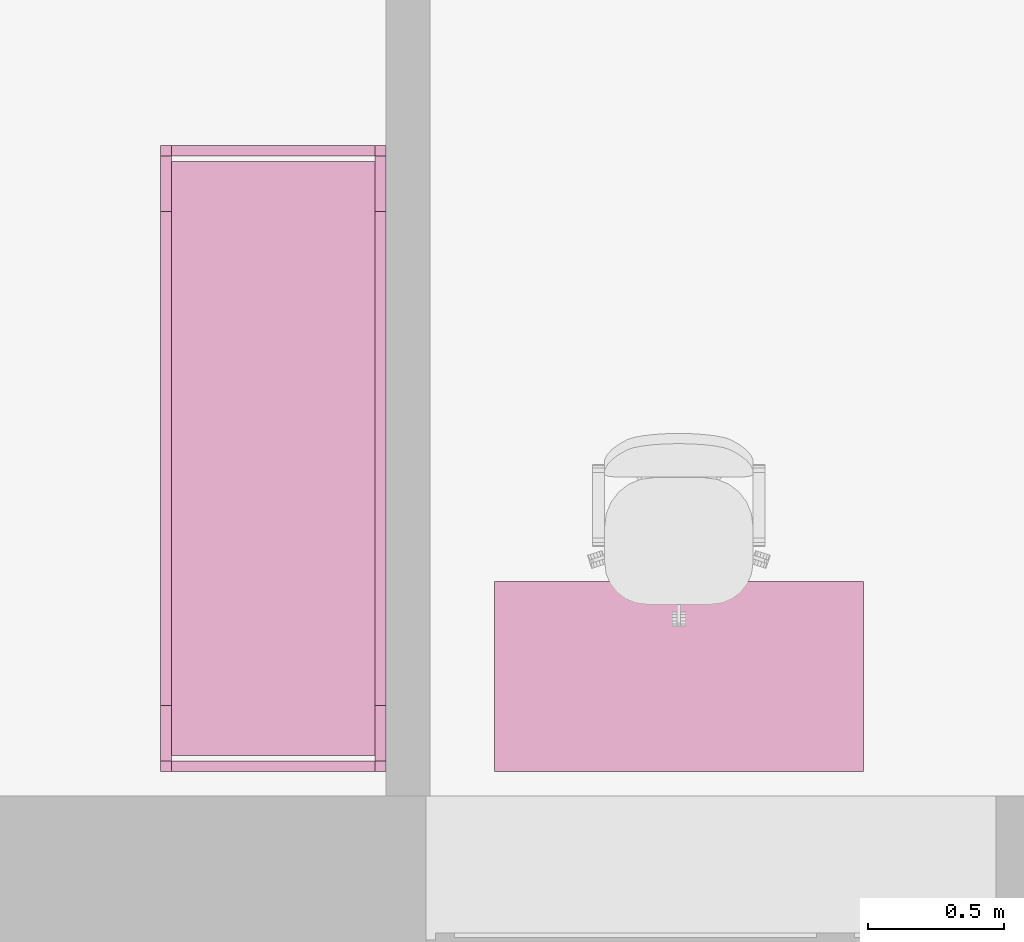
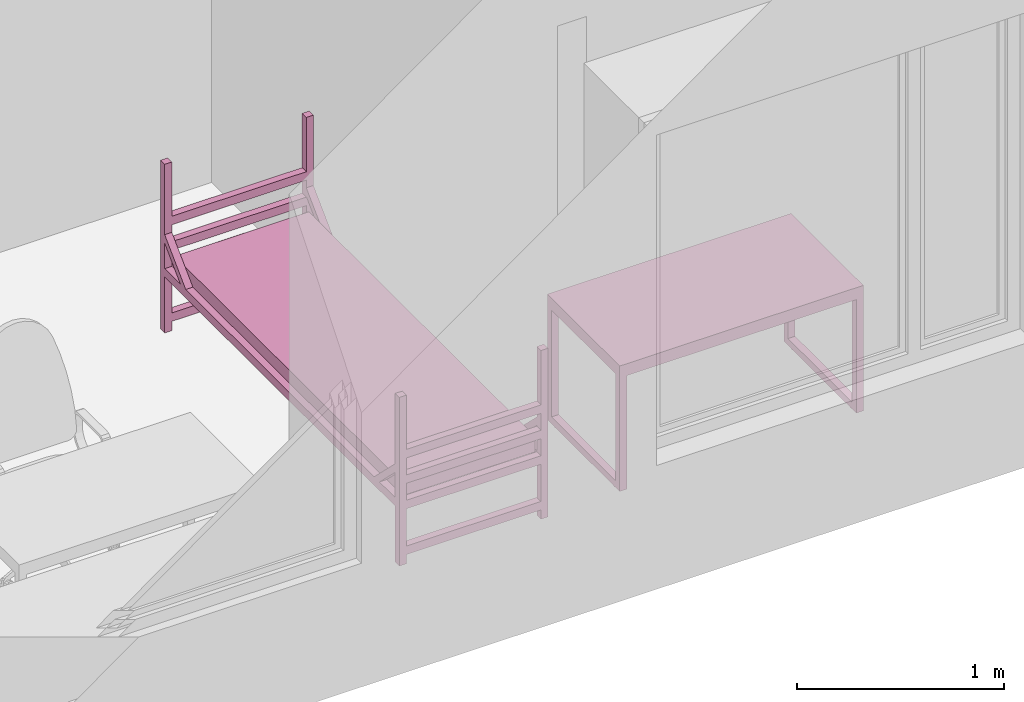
# One storey, part 32 of 48: 2 furnishings.
"""IFC2X3 building model written with IfcOpenShell, lengths in millimetres."""

from ifc_helpers import new_model, entity, si_unit, converted_unit, derived_unit, direction, frame, frame_2d, origin, place, context, subcontext, project, spatial, polyline, circle_curve, parameter, trimmed, segment, composite_curve, rectangle, outline, extrude, faceted_brep, source, transform, mapped, material, material_list, type_object, type_shapes, element, save


model = new_model("IFC2X3")

# Units and contexts
model_context = context("Model", 3, precision=0.01, world=origin(), true_north=direction((6.12303176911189e-17, 1.0)))
body_context = subcontext(model_context, "Body", "Model", "MODEL_VIEW")
ifc_project = project(units=[si_unit("LENGTHUNIT", "METRE", prefix="MILLI"), si_unit("AREAUNIT", "SQUARE_METRE"), si_unit("VOLUMEUNIT", "CUBIC_METRE"), converted_unit("PLANEANGLEUNIT", "DEGREE", entity("IfcRatioMeasure", 0.0174532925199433), si_unit("PLANEANGLEUNIT", "RADIAN"), dimensions=[0, 0, 0, 0, 0, 0, 0]), si_unit("MASSUNIT", "GRAM", prefix="KILO"), derived_unit("MASSDENSITYUNIT", [(si_unit("MASSUNIT", "GRAM", prefix="KILO"), 1), (si_unit("LENGTHUNIT", "METRE"), -3)]), si_unit("TIMEUNIT", "SECOND"), si_unit("FREQUENCYUNIT", "HERTZ"), si_unit("THERMODYNAMICTEMPERATUREUNIT", "DEGREE_CELSIUS"), derived_unit("THERMALTRANSMITTANCEUNIT", [(si_unit("MASSUNIT", "GRAM", prefix="KILO"), 1), (si_unit("THERMODYNAMICTEMPERATUREUNIT", "KELVIN"), -1), (si_unit("TIMEUNIT", "SECOND"), -3)]), derived_unit("VOLUMETRICFLOWRATEUNIT", [(si_unit("LENGTHUNIT", "METRE"), 3), (si_unit("TIMEUNIT", "SECOND"), -1)]), si_unit("ELECTRICCURRENTUNIT", "AMPERE"), si_unit("ELECTRICVOLTAGEUNIT", "VOLT"), si_unit("POWERUNIT", "WATT"), si_unit("FORCEUNIT", "NEWTON", prefix="KILO"), si_unit("ILLUMINANCEUNIT", "LUX"), si_unit("LUMINOUSFLUXUNIT", "LUMEN"), si_unit("LUMINOUSINTENSITYUNIT", "CANDELA"), derived_unit("USERDEFINED", [(si_unit("MASSUNIT", "GRAM", prefix="KILO"), -1), (si_unit("LENGTHUNIT", "METRE"), -2), (si_unit("TIMEUNIT", "SECOND"), 3), (si_unit("LUMINOUSFLUXUNIT", "LUMEN"), 1)]), derived_unit("LINEARVELOCITYUNIT", [(si_unit("LENGTHUNIT", "METRE"), 1), (si_unit("TIMEUNIT", "SECOND"), -1)]), si_unit("PRESSUREUNIT", "PASCAL"), derived_unit("USERDEFINED", [(si_unit("LENGTHUNIT", "METRE"), -2), (si_unit("MASSUNIT", "GRAM", prefix="KILO"), 1), (si_unit("TIMEUNIT", "SECOND"), -2)]), derived_unit("LINEARFORCEUNIT", [(si_unit("MASSUNIT", "GRAM", prefix="KILO"), 1), (si_unit("LENGTHUNIT", "METRE"), 1), (si_unit("TIMEUNIT", "SECOND"), -2), (si_unit("LENGTHUNIT", "METRE"), -1)]), derived_unit("PLANARFORCEUNIT", [(si_unit("MASSUNIT", "GRAM", prefix="KILO"), 1), (si_unit("LENGTHUNIT", "METRE"), 1), (si_unit("TIMEUNIT", "SECOND"), -2), (si_unit("LENGTHUNIT", "METRE"), -2)])], contexts=[model_context])

# Site, building, storey, space
site_placement = place(None, origin())
site = spatial("IfcSite", under=ifc_project, at=site_placement, Name="Default", CompositionType="ELEMENT")
building_placement = place(site_placement, origin())
building = spatial("IfcBuilding", under=site, at=building_placement, Name="SMA ARH", CompositionType="ELEMENT")
storey_placement = place(building_placement, frame((0.0, 0.0, 3300.0)))
storey = spatial("IfcBuildingStorey", under=building, at=storey_placement, Name="2 Korrus", CompositionType="ELEMENT", Elevation=3299.99999999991)
space_1_placement = place(storey_placement, origin())
space_1 = spatial("IfcSpace", under=storey, at=space_1_placement, Name="2-12", CompositionType="ELEMENT", InteriorOrExteriorSpace="INTERNAL")

# Furnishing
ifc_material_1 = material(Name="Madrats")
furniture_type_1 = type_object("IfcFurnitureType", Name="Kasarmu voodi ühekordne 2308x830:Kasarmu voodi ühekordne 2308x830", material=ifc_material_1)
shared_shape_1 = source(origin(), body_context, "Body", "SweptSolid", [
    extrude(rectangle(XDim=39.9999999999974, YDim=750.000000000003, at=frame_2d((-1.35003119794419e-13, -2.8421709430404e-14), x_axis=(1.0, 0.0))), frame((1.68638457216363, -1226.7969571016, 55.0), z_axis=(0.0, 0.0, 1.0), x_axis=(0.0, -1.0, 0.0)), (0.0, 0.0, 1.0), 49.9999999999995),
    extrude(rectangle(XDim=39.9999999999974, YDim=750.000000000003, at=frame_2d((-1.35003119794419e-13, -2.8421709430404e-14), x_axis=(1.0, 0.0))), frame((1.68638457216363, -1226.7969571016, 325.0), z_axis=(0.0, 0.0, 1.0), x_axis=(0.0, -1.0, 0.0)), (0.0, 0.0, 1.0), 49.9999999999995),
    extrude(rectangle(XDim=39.9999999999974, YDim=750.000000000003, at=frame_2d((-1.35003119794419e-13, -2.8421709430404e-14), x_axis=(1.0, 0.0))), frame((1.68638457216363, -1226.7969571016, 475.0), z_axis=(0.0, 0.0, 1.0), x_axis=(0.0, -1.0, 0.0)), (0.0, 0.0, 1.0), 49.9999999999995),
    extrude(rectangle(XDim=39.9999999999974, YDim=750.000000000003, at=frame_2d((-1.35003119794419e-13, -2.8421709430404e-14), x_axis=(1.0, 0.0))), frame((1.68638457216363, -1226.7969571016, 625.0), z_axis=(0.0, 0.0, 1.0), x_axis=(0.0, -1.0, 0.0)), (0.0, 0.0, 1.0), 50.0000000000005),
    extrude(rectangle(XDim=39.9999999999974, YDim=750.000000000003, at=frame_2d((1.35003119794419e-13, -2.8421709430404e-14), x_axis=(1.0, 0.0))), frame((1.68638457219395, 1041.2030428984, 55.0), z_axis=(0.0, 0.0, 1.0), x_axis=(0.0, -1.0, 0.0)), (0.0, 0.0, 1.0), 50.0000000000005),
    extrude(rectangle(XDim=39.9999999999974, YDim=750.000000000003, at=frame_2d((1.35003119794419e-13, -2.8421709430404e-14), x_axis=(1.0, 0.0))), frame((1.68638457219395, 1041.2030428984, 325.0), z_axis=(0.0, 0.0, 1.0), x_axis=(0.0, -1.0, 0.0)), (0.0, 0.0, 1.0), 50.0000000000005),
    extrude(rectangle(XDim=39.9999999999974, YDim=750.000000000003, at=frame_2d((1.35003119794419e-13, -2.8421709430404e-14), x_axis=(1.0, 0.0))), frame((1.68638457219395, 1041.2030428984, 475.0), z_axis=(0.0, 0.0, 1.0), x_axis=(0.0, -1.0, 0.0)), (0.0, 0.0, 1.0), 50.0000000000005),
    extrude(rectangle(XDim=39.9999999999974, YDim=750.000000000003, at=frame_2d((1.35003119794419e-13, -2.8421709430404e-14), x_axis=(1.0, 0.0))), frame((1.68638457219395, 1041.2030428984, 625.0), z_axis=(0.0, 0.0, 1.0), x_axis=(0.0, -1.0, 0.0)), (0.0, 0.0, 1.0), 49.9999999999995),
    extrude(outline(composite_curve([segment(trimmed(circle_curve(frame_2d((1085.0, -40.0), x_axis=(1.0, 0.0)), 10.0), [parameter(270.0)], [parameter(0.0)], True, "PARAMETER"), True, "CONTINUOUS"), segment(polyline([(1095.0, -40.0), (1095.0, 40.0)]), True, "CONTINUOUS"), segment(trimmed(circle_curve(frame_2d((1085.0, 40.0), x_axis=(1.0, 0.0)), 10.0), [parameter(0.0)], [parameter(90.0000000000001)], True, "PARAMETER"), True, "CONTINUOUS"), segment(polyline([(1085.0, 50.0), (-1085.0, 50.0)]), True, "CONTINUOUS"), segment(trimmed(circle_curve(frame_2d((-1085.0, 40.0), x_axis=(1.0, 0.0)), 10.0), [parameter(90.0000000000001)], [parameter(180.0)], True, "PARAMETER"), True, "CONTINUOUS"), segment(polyline([(-1095.0, 40.0), (-1095.0, -40.0)]), True, "CONTINUOUS"), segment(trimmed(circle_curve(frame_2d((-1085.0, -40.0), x_axis=(1.0, 0.0)), 10.0), [parameter(180.0)], [parameter(270.0)], True, "PARAMETER"), True, "CONTINUOUS"), segment(polyline([(-1085.0, -50.0), (1085.0, -50.0)]), True, "CONTINUOUS")], self_intersect=False)), frame((-373.313615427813, -92.7969571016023, 405.0), z_axis=(1.0, 0.0, 0.0), x_axis=(0.0, -1.0, 0.0)), (0.0, 0.0, 1.0), 750.000000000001),
    extrude(outline(polyline([(-1114.0, -100.0), (1114.0, -100.0), (1114.0, -50.0), (961.59199141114, -50.0), (1114.0, 100.0), (1114.0, 150.0), (910.789321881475, -50.0), (-910.789321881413, -50.0), (-1114.0, 150.0), (-1114.0, 100.0), (-961.591991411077, -50.0), (-1114.0, -50.0), (-1114.0, -100.0)])), frame((-413.313615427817, -92.7969571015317, 430.0), z_axis=(1.0, 0.0, 0.0), x_axis=(0.0, 1.0, 0.0)), (0.0, 0.0, 1.0), 39.9999999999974),
    extrude(outline(polyline([(-1114.0, -100.0), (1114.0, -100.0), (1114.0, -50.0), (961.591991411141, -50.0), (1114.0, 100.0), (1114.0, 150.0), (910.789321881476, -50.0), (-910.789321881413, -50.0), (-1114.0, 150.0), (-1114.0, 100.0), (-961.591991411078, -50.0), (-1114.0, -50.0), (-1114.0, -100.0)])), frame((376.686384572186, -92.796957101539, 430.0), z_axis=(1.0, 0.0, 0.0), x_axis=(0.0, 1.0, 0.0)), (0.0, 0.0, 1.0), 39.9999999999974),
    extrude(rectangle(XDim=39.9999999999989, YDim=39.9999999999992, at=frame_2d((-6.75015598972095e-14, 0.0), x_axis=(1.0, 0.0))), frame((396.686384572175, -1226.79695710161, 0.0), z_axis=(0.0, 0.0, 1.0), x_axis=(0.0, 1.0, 0.0)), (0.0, 0.0, 1.0), 995.0),
    extrude(rectangle(XDim=39.9999999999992, YDim=39.9999999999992, at=frame_2d((-1.35003119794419e-13, 0.0), x_axis=(1.0, 0.0))), frame((396.686384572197, 1041.20304289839, 0.0), z_axis=(0.0, 0.0, 1.0), x_axis=(0.0, 1.0, 0.0)), (0.0, 0.0, 1.0), 995.0),
    extrude(rectangle(XDim=40.0000000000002, YDim=39.9999999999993, at=frame_2d((-1.35003119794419e-13, 0.0), x_axis=(1.0, 0.0))), frame((-393.313615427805, 1041.2030428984, 0.0), z_axis=(0.0, 0.0, 1.0), x_axis=(0.0, 1.0, 0.0)), (0.0, 0.0, 1.0), 995.0),
    extrude(rectangle(XDim=39.9999999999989, YDim=39.9999999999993, at=frame_2d((-6.75015598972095e-14, 0.0), x_axis=(1.0, 0.0))), frame((-393.313615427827, -1226.7969571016, 0.0), z_axis=(0.0, 0.0, 1.0), x_axis=(0.0, 1.0, 0.0)), (0.0, 0.0, 1.0), 995.0),
])
type_shapes(furniture_type_1, [shared_shape_1])
furnishing_1_placement = place(space_1_placement, frame((15744.1863845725, 1151.20304289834, 0.0), z_axis=(0.0, 0.0, 1.0), x_axis=(-1.0, 0.0, 0.0)))
element("IfcFurnishingElement", 1, at=furnishing_1_placement, inside=space_1, type_object=furniture_type_1, material=ifc_material_1, Name="Kasarmu voodi ühekordne 2308x830:Kasarmu voodi ühekordne 2308x830", ObjectType="Kasarmu voodi ühekordne 2308x830:Kasarmu voodi ühekordne 2308x830", context=body_context, shape_type="MappedRepresentation", body=[
    mapped(shared_shape_1, transform((0.0, 0.0, 0.0), scale=1.0)),
])

# Space
space_2_placement = place(storey_placement, origin())
space_2 = spatial("IfcSpace", under=storey, at=space_2_placement, Name="2-9", CompositionType="ELEMENT", InteriorOrExteriorSpace="INTERNAL")

# Furnishing
ifc_material_2 = material(Name="<Unnamed>")
ifc_material_list = material_list([ifc_material_2, ifc_material_2])
furniture_type_2 = type_object("IfcFurnitureType", Name="kirjutuslaud 1360x700mm:kirjutuslaud 1360x700mm", material=ifc_material_list)
shared_shape_2 = source(origin(), body_context, "Body", "Brep", [
    faceted_brep([(680.0, -350.0, 720.0), (680.0, 350.0, 720.0), (680.0, 350.0, 750.0), (680.0, -350.0, 750.0), (-680.0, -350.0, 720.0), (-680.0, -350.0, 750.0), (-680.0, 350.0, 750.0), (-680.0, 350.0, 720.0)], [[[0, 1, 2, 3]], [[4, 5, 6, 7]], [[1, 0, 4, 7]], [[2, 1, 7, 6]], [[3, 2, 6, 5]], [[0, 3, 5, 4]]]),
    faceted_brep([(-640.0, -310.0, 680.0), (-640.0, 310.0, 680.0), (-640.0, 310.0, 720.0), (-640.0, -310.0, 720.0), (-680.0, -350.0, 720.0), (-680.0, 350.0, 720.0), (-680.0, 350.0, 10.0), (-680.0, -350.0, 10.0), (-680.0, 310.0, 680.0), (-680.0, -310.0, 680.0), (-680.0, -310.0, 50.0), (-680.0, 310.0, 50.0), (-640.0, -350.0, 10.0), (-640.0, -350.0, 680.0), (640.0, -350.0, 680.0), (640.0, -350.0, 10.0), (680.0, -350.0, 10.0), (680.0, -350.0, 720.0), (-640.0, 350.0, 10.0), (680.0, 350.0, 720.0), (680.0, 350.0, 10.0), (640.0, 350.0, 10.0), (640.0, 350.0, 680.0), (-640.0, 350.0, 680.0), (640.0, 310.0, 720.0), (640.0, -310.0, 720.0), (-640.0, 310.0, 50.0), (-640.0, -310.0, 50.0), (640.0, -310.0, 680.0), (640.0, 310.0, 680.0), (680.0, 310.0, 680.0), (680.0, 310.0, 50.0), (680.0, -310.0, 50.0), (680.0, -310.0, 680.0), (640.0, -310.0, 50.0), (640.0, 310.0, 50.0)], [[[0, 1, 2, 3]], [[4, 5, 6, 7], [8, 9, 10, 11]], [[4, 7, 12, 13, 14, 15, 16, 17]], [[18, 12, 7, 6]], [[6, 5, 19, 20, 21, 22, 23, 18]], [[19, 5, 4, 17], [2, 24, 25, 3]], [[26, 1, 8, 11]], [[27, 26, 11, 10]], [[0, 27, 10, 9]], [[1, 0, 9, 8]], [[14, 13, 0, 28]], [[24, 2, 1, 29]], [[3, 25, 28, 0]], [[17, 16, 20, 19], [30, 31, 32, 33]], [[21, 15, 14, 28, 34, 35, 29, 22]], [[20, 16, 15, 21]], [[31, 30, 29, 35]], [[32, 31, 35, 34]], [[33, 32, 34, 28]], [[30, 33, 28, 29]], [[29, 28, 25, 24]], [[29, 1, 23, 22]], [[12, 18, 23, 1, 26, 27, 0, 13]]]),
    faceted_brep([(-663.729456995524, -270.466136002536, 0.0), (-659.847171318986, -269.955023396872, 0.0), (-655.964885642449, -270.466136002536, 0.0), (-652.347171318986, -271.964642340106, 0.0), (-649.240569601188, -274.348421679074, 0.0), (-646.85679026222, -277.455023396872, 0.0), (-645.35828392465, -281.072737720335, 0.0), (-644.847171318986, -284.955023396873, 0.0), (-645.35828392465, -288.83730907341, 0.0), (-646.85679026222, -292.455023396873, 0.0), (-649.240569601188, -295.561625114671, 0.0), (-652.347171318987, -297.945404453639, 0.0), (-655.964885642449, -299.443910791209, 0.0), (-659.847171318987, -299.955023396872, 0.0), (-663.729456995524, -299.443910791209, 0.0), (-667.347171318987, -297.945404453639, 0.0), (-670.453773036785, -295.561625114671, 0.0), (-672.837552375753, -292.455023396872, 0.0), (-674.336058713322, -288.83730907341, 0.0), (-674.847171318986, -284.955023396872, 0.0), (-674.336058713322, -281.072737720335, 0.0), (-672.837552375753, -277.455023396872, 0.0), (-670.453773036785, -274.348421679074, 0.0), (-667.347171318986, -271.964642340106, 0.0), (-655.964885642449, -299.443910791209, 10.0), (-652.347171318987, -297.945404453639, 10.0), (-649.240569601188, -295.561625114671, 10.0), (-646.85679026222, -292.455023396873, 10.0), (-645.35828392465, -288.83730907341, 10.0), (-644.847171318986, -284.955023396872, 10.0), (-645.35828392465, -281.072737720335, 10.0), (-646.85679026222, -277.455023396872, 10.0), (-649.240569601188, -274.348421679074, 10.0), (-652.347171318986, -271.964642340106, 10.0), (-655.964885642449, -270.466136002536, 10.0), (-659.847171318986, -269.955023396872, 10.0), (-663.729456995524, -270.466136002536, 10.0), (-667.347171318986, -271.964642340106, 10.0), (-670.453773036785, -274.348421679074, 10.0), (-672.837552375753, -277.455023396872, 10.0), (-674.336058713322, -281.072737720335, 10.0), (-674.847171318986, -284.955023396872, 10.0), (-674.336058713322, -288.83730907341, 10.0), (-672.837552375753, -292.455023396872, 10.0), (-670.453773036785, -295.561625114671, 10.0), (-667.347171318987, -297.945404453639, 10.0), (-663.729456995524, -299.443910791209, 10.0), (-659.847171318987, -299.955023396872, 10.0)], [[[0, 1, 2, 3, 4, 5, 6, 7, 8, 9, 10, 11, 12, 13, 14, 15, 16, 17, 18, 19, 20, 21, 22, 23]], [[24, 25, 26, 27, 28, 29, 30, 31, 32, 33, 34, 35, 36, 37, 38, 39, 40, 41, 42, 43, 44, 45, 46, 47]], [[18, 42, 41, 19]], [[17, 43, 42, 18]], [[45, 44, 16, 15]], [[17, 16, 44, 43]], [[46, 45, 15, 14]], [[47, 46, 14, 13]], [[12, 24, 47, 13]], [[11, 25, 24, 12]], [[27, 26, 10, 9]], [[11, 10, 26, 25]], [[28, 27, 9, 8]], [[29, 28, 8, 7]], [[6, 30, 29, 7]], [[5, 31, 30, 6]], [[33, 32, 4, 3]], [[5, 4, 32, 31]], [[34, 33, 3, 2]], [[35, 34, 2, 1]], [[0, 36, 35, 1]], [[23, 37, 36, 0]], [[39, 38, 22, 21]], [[23, 22, 38, 37]], [[40, 39, 21, 20]], [[41, 40, 20, 19]]]),
    faceted_brep([(-655.964885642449, 270.466136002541, 10.0), (-652.347171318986, 271.964642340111, 10.0), (-649.240569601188, 274.348421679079, 10.0), (-646.85679026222, 277.455023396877, 10.0), (-645.35828392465, 281.07273772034, 10.0), (-644.847171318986, 284.955023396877, 10.0), (-645.35828392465, 288.837309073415, 10.0), (-646.85679026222, 292.455023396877, 10.0), (-649.240569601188, 295.561625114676, 10.0), (-652.347171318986, 297.945404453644, 10.0), (-655.964885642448, 299.443910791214, 10.0), (-659.847171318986, 299.955023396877, 10.0), (-663.729456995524, 299.443910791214, 10.0), (-667.347171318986, 297.945404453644, 10.0), (-670.453773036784, 295.561625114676, 10.0), (-672.837552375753, 292.455023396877, 10.0), (-674.336058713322, 288.837309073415, 10.0), (-674.847171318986, 284.955023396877, 10.0), (-674.336058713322, 281.07273772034, 10.0), (-672.837552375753, 277.455023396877, 10.0), (-670.453773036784, 274.348421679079, 10.0), (-667.347171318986, 271.964642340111, 10.0), (-663.729456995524, 270.466136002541, 10.0), (-659.847171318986, 269.955023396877, 10.0), (-655.964885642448, 299.443910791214, 0.0), (-652.347171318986, 297.945404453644, 0.0), (-649.240569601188, 295.561625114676, 0.0), (-646.85679026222, 292.455023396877, 0.0), (-645.35828392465, 288.837309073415, 0.0), (-644.847171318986, 284.955023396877, 0.0), (-645.35828392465, 281.07273772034, 0.0), (-646.85679026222, 277.455023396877, 0.0), (-649.240569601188, 274.348421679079, 0.0), (-652.347171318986, 271.964642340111, 0.0), (-655.964885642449, 270.466136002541, 0.0), (-659.847171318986, 269.955023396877, 0.0), (-663.729456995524, 270.466136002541, 0.0), (-667.347171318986, 271.964642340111, 0.0), (-670.453773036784, 274.348421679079, 0.0), (-672.837552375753, 277.455023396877, 0.0), (-674.336058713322, 281.07273772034, 0.0), (-674.847171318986, 284.955023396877, 0.0), (-674.336058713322, 288.837309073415, 0.0), (-672.837552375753, 292.455023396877, 0.0), (-670.453773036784, 295.561625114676, 0.0), (-667.347171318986, 297.945404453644, 0.0), (-663.729456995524, 299.443910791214, 0.0), (-659.847171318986, 299.955023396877, 0.0)], [[[0, 1, 2, 3, 4, 5, 6, 7, 8, 9, 10, 11, 12, 13, 14, 15, 16, 17, 18, 19, 20, 21, 22, 23]], [[24, 25, 26, 27, 28, 29, 30, 31, 32, 33, 34, 35, 36, 37, 38, 39, 40, 41, 42, 43, 44, 45, 46, 47]], [[40, 18, 17, 41]], [[39, 19, 18, 40]], [[21, 20, 38, 37]], [[39, 38, 20, 19]], [[22, 21, 37, 36]], [[23, 22, 36, 35]], [[34, 0, 23, 35]], [[33, 1, 0, 34]], [[3, 2, 32, 31]], [[33, 32, 2, 1]], [[4, 3, 31, 30]], [[5, 4, 30, 29]], [[28, 6, 5, 29]], [[27, 7, 6, 28]], [[9, 8, 26, 25]], [[27, 26, 8, 7]], [[10, 9, 25, 24]], [[11, 10, 24, 47]], [[46, 12, 11, 47]], [[45, 13, 12, 46]], [[15, 14, 44, 43]], [[45, 44, 14, 13]], [[16, 15, 43, 42]], [[17, 16, 42, 41]]]),
    faceted_brep([(656.270543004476, -270.466136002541, 0.0), (660.152828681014, -269.955023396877, 0.0), (664.035114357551, -270.466136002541, 0.0), (667.652828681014, -271.96464234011, 0.0), (670.759430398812, -274.348421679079, 0.0), (673.14320973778, -277.455023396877, 0.0), (674.64171607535, -281.072737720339, 0.0), (675.152828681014, -284.955023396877, 0.0), (674.64171607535, -288.837309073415, 0.0), (673.14320973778, -292.455023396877, 0.0), (670.759430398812, -295.561625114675, 0.0), (667.652828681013, -297.945404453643, 0.0), (664.035114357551, -299.443910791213, 0.0), (660.152828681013, -299.955023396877, 0.0), (656.270543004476, -299.443910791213, 0.0), (652.652828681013, -297.945404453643, 0.0), (649.546226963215, -295.561625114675, 0.0), (647.162447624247, -292.455023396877, 0.0), (645.663941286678, -288.837309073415, 0.0), (645.152828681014, -284.955023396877, 0.0), (645.663941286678, -281.072737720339, 0.0), (647.162447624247, -277.455023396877, 0.0), (649.546226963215, -274.348421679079, 0.0), (652.652828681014, -271.96464234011, 0.0), (664.035114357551, -299.443910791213, 10.0), (667.652828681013, -297.945404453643, 10.0), (670.759430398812, -295.561625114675, 10.0), (673.14320973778, -292.455023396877, 10.0), (674.64171607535, -288.837309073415, 10.0), (675.152828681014, -284.955023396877, 10.0), (674.64171607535, -281.072737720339, 10.0), (673.14320973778, -277.455023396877, 10.0), (670.759430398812, -274.348421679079, 10.0), (667.652828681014, -271.96464234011, 10.0), (664.035114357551, -270.466136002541, 10.0), (660.152828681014, -269.955023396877, 10.0), (656.270543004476, -270.466136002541, 10.0), (652.652828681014, -271.96464234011, 10.0), (649.546226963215, -274.348421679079, 10.0), (647.162447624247, -277.455023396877, 10.0), (645.663941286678, -281.072737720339, 10.0), (645.152828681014, -284.955023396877, 10.0), (645.663941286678, -288.837309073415, 10.0), (647.162447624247, -292.455023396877, 10.0), (649.546226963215, -295.561625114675, 10.0), (652.652828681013, -297.945404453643, 10.0), (656.270543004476, -299.443910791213, 10.0), (660.152828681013, -299.955023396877, 10.0)], [[[0, 1, 2, 3, 4, 5, 6, 7, 8, 9, 10, 11, 12, 13, 14, 15, 16, 17, 18, 19, 20, 21, 22, 23]], [[24, 25, 26, 27, 28, 29, 30, 31, 32, 33, 34, 35, 36, 37, 38, 39, 40, 41, 42, 43, 44, 45, 46, 47]], [[18, 42, 41, 19]], [[17, 43, 42, 18]], [[45, 44, 16, 15]], [[17, 16, 44, 43]], [[46, 45, 15, 14]], [[47, 46, 14, 13]], [[12, 24, 47, 13]], [[11, 25, 24, 12]], [[27, 26, 10, 9]], [[11, 10, 26, 25]], [[28, 27, 9, 8]], [[29, 28, 8, 7]], [[6, 30, 29, 7]], [[5, 31, 30, 6]], [[33, 32, 4, 3]], [[5, 4, 32, 31]], [[34, 33, 3, 2]], [[35, 34, 2, 1]], [[0, 36, 35, 1]], [[23, 37, 36, 0]], [[39, 38, 22, 21]], [[23, 22, 38, 37]], [[40, 39, 21, 20]], [[41, 40, 20, 19]]]),
    faceted_brep([(664.035114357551, 270.466136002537, 10.0), (667.652828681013, 271.964642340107, 10.0), (670.759430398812, 274.348421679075, 10.0), (673.14320973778, 277.455023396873, 10.0), (674.64171607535, 281.072737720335, 10.0), (675.152828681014, 284.955023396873, 10.0), (674.64171607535, 288.837309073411, 10.0), (673.14320973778, 292.455023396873, 10.0), (670.759430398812, 295.561625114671, 10.0), (667.652828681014, 297.94540445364, 10.0), (664.035114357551, 299.443910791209, 10.0), (660.152828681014, 299.955023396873, 10.0), (656.270543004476, 299.443910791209, 10.0), (652.652828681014, 297.94540445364, 10.0), (649.546226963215, 295.561625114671, 10.0), (647.162447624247, 292.455023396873, 10.0), (645.663941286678, 288.837309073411, 10.0), (645.152828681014, 284.955023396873, 10.0), (645.663941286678, 281.072737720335, 10.0), (647.162447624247, 277.455023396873, 10.0), (649.546226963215, 274.348421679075, 10.0), (652.652828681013, 271.964642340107, 10.0), (656.270543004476, 270.466136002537, 10.0), (660.152828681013, 269.955023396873, 10.0), (664.035114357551, 299.443910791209, 0.0), (667.652828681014, 297.94540445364, 0.0), (670.759430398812, 295.561625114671, 0.0), (673.14320973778, 292.455023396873, 0.0), (674.64171607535, 288.837309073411, 0.0), (675.152828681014, 284.955023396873, 0.0), (674.64171607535, 281.072737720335, 0.0), (673.14320973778, 277.455023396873, 0.0), (670.759430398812, 274.348421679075, 0.0), (667.652828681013, 271.964642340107, 0.0), (664.035114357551, 270.466136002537, 0.0), (660.152828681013, 269.955023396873, 0.0), (656.270543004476, 270.466136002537, 0.0), (652.652828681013, 271.964642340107, 0.0), (649.546226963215, 274.348421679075, 0.0), (647.162447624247, 277.455023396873, 0.0), (645.663941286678, 281.072737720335, 0.0), (645.152828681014, 284.955023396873, 0.0), (645.663941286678, 288.837309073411, 0.0), (647.162447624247, 292.455023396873, 0.0), (649.546226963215, 295.561625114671, 0.0), (652.652828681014, 297.94540445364, 0.0), (656.270543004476, 299.443910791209, 0.0), (660.152828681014, 299.955023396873, 0.0)], [[[0, 1, 2, 3, 4, 5, 6, 7, 8, 9, 10, 11, 12, 13, 14, 15, 16, 17, 18, 19, 20, 21, 22, 23]], [[24, 25, 26, 27, 28, 29, 30, 31, 32, 33, 34, 35, 36, 37, 38, 39, 40, 41, 42, 43, 44, 45, 46, 47]], [[40, 18, 17, 41]], [[39, 19, 18, 40]], [[21, 20, 38, 37]], [[39, 38, 20, 19]], [[22, 21, 37, 36]], [[23, 22, 36, 35]], [[34, 0, 23, 35]], [[33, 1, 0, 34]], [[3, 2, 32, 31]], [[33, 32, 2, 1]], [[4, 3, 31, 30]], [[5, 4, 30, 29]], [[28, 6, 5, 29]], [[27, 7, 6, 28]], [[9, 8, 26, 25]], [[27, 26, 8, 7]], [[10, 9, 25, 24]], [[11, 10, 24, 47]], [[46, 12, 11, 47]], [[45, 13, 12, 46]], [[15, 14, 44, 43]], [[45, 44, 14, 13]], [[16, 15, 43, 42]], [[17, 16, 42, 41]]]),
])
type_shapes(furniture_type_2, [shared_shape_2])
furnishing_2_placement = place(space_2_placement, frame((17237.0, 440.0, 0.0)))
element("IfcFurnishingElement", 2, at=furnishing_2_placement, inside=space_2, type_object=furniture_type_2, Name="kirjutuslaud 1360x700mm:kirjutuslaud 1360x700mm", ObjectType="kirjutuslaud 1360x700mm:kirjutuslaud 1360x700mm", context=body_context, shape_type="MappedRepresentation", body=[
    mapped(shared_shape_2, transform((0.0, 0.0, 0.0), scale=1.0)),
])

save(model, "model.ifc")
